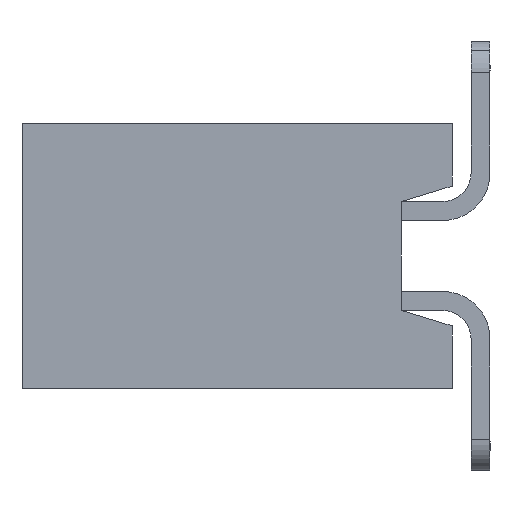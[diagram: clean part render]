
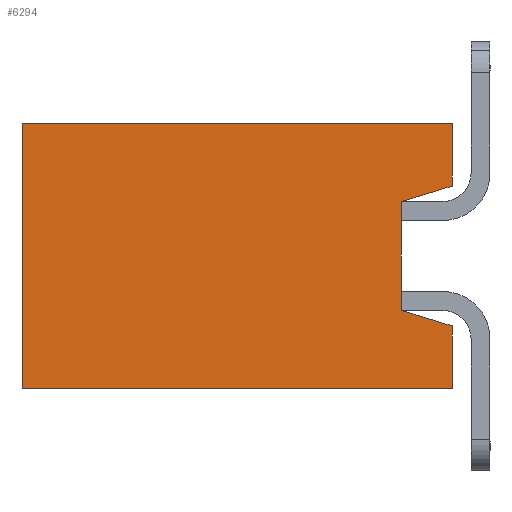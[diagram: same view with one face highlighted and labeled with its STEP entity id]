
A CAD part, left-side view. The second image highlights one B-rep face of the part: STEP entity #6294.
In plain terms, the highlighted planar face has unit normal (-1, 0, 0).
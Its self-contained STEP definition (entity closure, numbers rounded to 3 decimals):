
#584 = ORIENTED_EDGE ( 'NONE', *, *, #9605, .F. ) ;
#826 = EDGE_CURVE ( 'NONE', #7073, #1039, #2923, .T. ) ;
#1030 = VECTOR ( 'NONE', #9481, 1000. ) ;
#1039 = VERTEX_POINT ( 'NONE', #8574 ) ;
#1131 = EDGE_CURVE ( 'NONE', #1039, #2806, #2005, .T. ) ;
#1265 = LINE ( 'NONE', #2921, #9274 ) ;
#1666 = CARTESIAN_POINT ( 'NONE',  ( -17.78, 0., 0. ) ) ;
#1965 = LINE ( 'NONE', #8772, #5176 ) ;
#1978 = ORIENTED_EDGE ( 'NONE', *, *, #1131, .F. ) ;
#2005 = LINE ( 'NONE', #8720, #1030 ) ;
#2013 = ORIENTED_EDGE ( 'NONE', *, *, #826, .F. ) ;
#2117 = DIRECTION ( 'NONE',  ( 0., 0., -1. ) ) ;
#2365 = EDGE_CURVE ( 'NONE', #8692, #7073, #9676, .T. ) ;
#2377 = EDGE_CURVE ( 'NONE', #5732, #8692, #1965, .T. ) ;
#2507 = ORIENTED_EDGE ( 'NONE', *, *, #6855, .F. ) ;
#2806 = VERTEX_POINT ( 'NONE', #6255 ) ;
#2819 = CARTESIAN_POINT ( 'NONE',  ( -17.78, 0., -0.498 ) ) ;
#2824 = EDGE_CURVE ( 'NONE', #4372, #2806, #4771, .T. ) ;
#2853 = ORIENTED_EDGE ( 'NONE', *, *, #2377, .F. ) ;
#2921 = CARTESIAN_POINT ( 'NONE',  ( -17.78, 0., -0.524 ) ) ;
#2923 = LINE ( 'NONE', #6684, #9665 ) ;
#3329 = DIRECTION ( 'NONE',  ( 0., 0., -1. ) ) ;
#3340 = DIRECTION ( 'NONE',  ( 1., 0., 0. ) ) ;
#3353 = CARTESIAN_POINT ( 'NONE',  ( -17.78, -0.07, -0.476 ) ) ;
#3410 = ORIENTED_EDGE ( 'NONE', *, *, #7403, .F. ) ;
#4372 = VERTEX_POINT ( 'NONE', #8203 ) ;
#4400 = CARTESIAN_POINT ( 'NONE',  ( -17.78, 0.4, -1.48 ) ) ;
#4771 = LINE ( 'NONE', #5562, #8306 ) ;
#4922 = FACE_OUTER_BOUND ( 'NONE', #9773, .T. ) ;
#5176 = VECTOR ( 'NONE', #8723, 1000. ) ;
#5562 = CARTESIAN_POINT ( 'NONE',  ( -17.78, 3.4, 0.65 ) ) ;
#5604 = VECTOR ( 'NONE', #5642, 1000. ) ;
#5642 = DIRECTION ( 'NONE',  ( 0., 0.956, -0.292 ) ) ;
#5732 = VERTEX_POINT ( 'NONE', #6038 ) ;
#5793 = DIRECTION ( 'NONE',  ( 0., -0.956, -0.292 ) ) ;
#6038 = CARTESIAN_POINT ( 'NONE',  ( -17.78, 0.4, -0.62 ) ) ;
#6255 = CARTESIAN_POINT ( 'NONE',  ( -17.78, 3.4, -2.1 ) ) ;
#6294 = ADVANCED_FACE ( 'NONE', ( #4922 ), #7142, .F. ) ;
#6530 = CARTESIAN_POINT ( 'NONE',  ( -17.78, 0.424, -1.473 ) ) ;
#6684 = CARTESIAN_POINT ( 'NONE',  ( -17.78, 0., -0.524 ) ) ;
#6855 = EDGE_CURVE ( 'NONE', #4372, #7663, #8428, .T. ) ;
#6888 = ORIENTED_EDGE ( 'NONE', *, *, #2824, .T. ) ;
#6959 = ORIENTED_EDGE ( 'NONE', *, *, #2365, .F. ) ;
#7073 = VERTEX_POINT ( 'NONE', #7568 ) ;
#7099 = DIRECTION ( 'NONE',  ( 0., 1., 0. ) ) ;
#7113 = LINE ( 'NONE', #3353, #5604 ) ;
#7142 = PLANE ( 'NONE',  #9397 ) ;
#7403 = EDGE_CURVE ( 'NONE', #9639, #5732, #7113, .T. ) ;
#7568 = CARTESIAN_POINT ( 'NONE',  ( -17.78, 0., -1.602 ) ) ;
#7652 = CARTESIAN_POINT ( 'NONE',  ( -17.78, 0., 0. ) ) ;
#7663 = VERTEX_POINT ( 'NONE', #7652 ) ;
#7958 = VECTOR ( 'NONE', #8570, 1000. ) ;
#8203 = CARTESIAN_POINT ( 'NONE',  ( -17.78, 3.4, 0. ) ) ;
#8306 = VECTOR ( 'NONE', #3329, 1000. ) ;
#8428 = LINE ( 'NONE', #1666, #7958 ) ;
#8570 = DIRECTION ( 'NONE',  ( 0., -1., 0. ) ) ;
#8574 = CARTESIAN_POINT ( 'NONE',  ( -17.78, 0., -2.1 ) ) ;
#8592 = CARTESIAN_POINT ( 'NONE',  ( -17.78, -0.001, 0.002 ) ) ;
#8692 = VERTEX_POINT ( 'NONE', #4400 ) ;
#8720 = CARTESIAN_POINT ( 'NONE',  ( -17.78, 0., -2.1 ) ) ;
#8723 = DIRECTION ( 'NONE',  ( 0., 0., -1. ) ) ;
#8772 = CARTESIAN_POINT ( 'NONE',  ( -17.78, 0.4, -0.309 ) ) ;
#8976 = DIRECTION ( 'NONE',  ( 0., 0., -1. ) ) ;
#9274 = VECTOR ( 'NONE', #2117, 1000. ) ;
#9397 = AXIS2_PLACEMENT_3D ( 'NONE', #8592, #3340, #7099 ) ;
#9467 = VECTOR ( 'NONE', #5793, 1000. ) ;
#9481 = DIRECTION ( 'NONE',  ( 0., 1., 0. ) ) ;
#9605 = EDGE_CURVE ( 'NONE', #7663, #9639, #1265, .T. ) ;
#9639 = VERTEX_POINT ( 'NONE', #2819 ) ;
#9665 = VECTOR ( 'NONE', #8976, 1000. ) ;
#9676 = LINE ( 'NONE', #6530, #9467 ) ;
#9773 = EDGE_LOOP ( 'NONE', ( #2507, #6888, #1978, #2013, #6959, #2853, #3410, #584 ) ) ;
